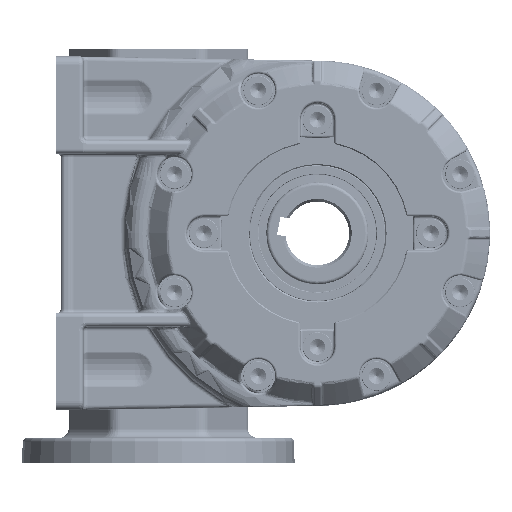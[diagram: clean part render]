
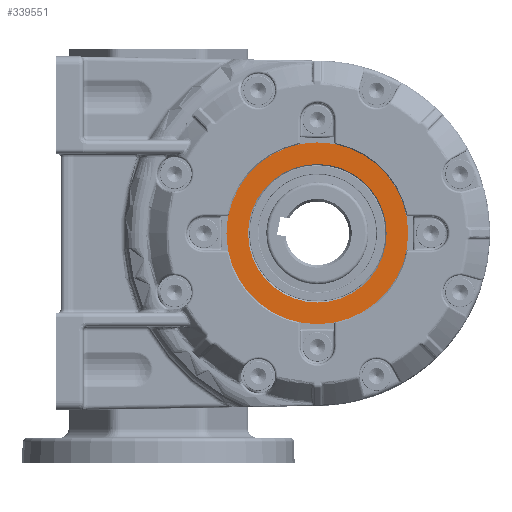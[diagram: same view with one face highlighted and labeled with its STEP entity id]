
A CAD part, left-side view. The second image highlights one B-rep face of the part: STEP entity #339551.
In plain terms, the highlighted planar face has unit normal (-1, 0, 0) as drawn and (0, 0, -1) by its records, which use the part's own axes.
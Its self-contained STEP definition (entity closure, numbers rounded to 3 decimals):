
#65634 = DIRECTION ( 'NONE',  ( 1., 0., 0. ) ) ;
#65635 = DIRECTION ( 'NONE',  ( 0., 0., 1. ) ) ;
#65636 = AXIS2_PLACEMENT_3D ( 'NONE', #65644, #65635, #65634 ) ;
#65637 = CIRCLE ( 'NONE', #65636, 40. ) ;
#65644 = CARTESIAN_POINT ( 'NONE',  ( 0., 0., -22.5 ) ) ;
#65780 = DIRECTION ( 'NONE',  ( 1., 0., 0. ) ) ;
#65782 = DIRECTION ( 'NONE',  ( 0., 0., 1. ) ) ;
#65785 = CARTESIAN_POINT ( 'NONE',  ( 0., 0., -22.5 ) ) ;
#65786 = AXIS2_PLACEMENT_3D ( 'NONE', #65785, #65782, #65780 ) ;
#65789 = CIRCLE ( 'NONE', #65786, 30.5 ) ;
#65798 = DIRECTION ( 'NONE',  ( 1., 0., 0. ) ) ;
#65801 = DIRECTION ( 'NONE',  ( 0., 0., 1. ) ) ;
#65804 = CARTESIAN_POINT ( 'NONE',  ( 0., 40., -22.5 ) ) ;
#65806 = AXIS2_PLACEMENT_3D ( 'NONE', #65804, #65801, #65798 ) ;
#65808 = PLANE ( 'NONE',  #65806 ) ;
#65817 = FACE_OUTER_BOUND ( 'NONE', #339577, .T. ) ;
#65819 = FACE_BOUND ( 'NONE', #339557, .T. ) ;
#69976 = DIRECTION ( 'NONE',  ( 1., 0., 0. ) ) ;
#69982 = CARTESIAN_POINT ( 'NONE',  ( 30.5, 0., -22.5 ) ) ;
#70062 = CARTESIAN_POINT ( 'NONE',  ( -30.5, 0., -22.5 ) ) ;
#71090 = DIRECTION ( 'NONE',  ( 0., 0., 1. ) ) ;
#71092 = CARTESIAN_POINT ( 'NONE',  ( 0., 0., -22.5 ) ) ;
#71095 = AXIS2_PLACEMENT_3D ( 'NONE', #71092, #71090, #69976 ) ;
#71098 = CIRCLE ( 'NONE', #71095, 30.5 ) ;
#103578 = DIRECTION ( 'NONE',  ( 0., 0., 1. ) ) ;
#103590 = CARTESIAN_POINT ( 'NONE',  ( 0., 0., -22.5 ) ) ;
#103623 = AXIS2_PLACEMENT_3D ( 'NONE', #103590, #103578, #103653 ) ;
#103626 = CIRCLE ( 'NONE', #103623, 40. ) ;
#103646 = CARTESIAN_POINT ( 'NONE',  ( -40., 0., -22.5 ) ) ;
#103649 = CARTESIAN_POINT ( 'NONE',  ( 40., 0., -22.5 ) ) ;
#103653 = DIRECTION ( 'NONE',  ( 1., 0., 0. ) ) ;
#339324 = EDGE_CURVE ( 'NONE', #428325, #428322, #65637, .T. ) ;
#339551 = ADVANCED_FACE ( 'NONE', ( #65819, #65817 ), #65808, .F. ) ;
#339557 = EDGE_LOOP ( 'NONE', ( #339560, #339564 ) ) ;
#339560 = ORIENTED_EDGE ( 'NONE', *, *, #426160, .T. ) ;
#339564 = ORIENTED_EDGE ( 'NONE', *, *, #339568, .T. ) ;
#339568 = EDGE_CURVE ( 'NONE', #426147, #426161, #65789, .T. ) ;
#339577 = EDGE_LOOP ( 'NONE', ( #339580, #339582 ) ) ;
#339580 = ORIENTED_EDGE ( 'NONE', *, *, #428321, .F. ) ;
#339582 = ORIENTED_EDGE ( 'NONE', *, *, #339324, .F. ) ;
#426147 = VERTEX_POINT ( 'NONE', #69982 ) ;
#426160 = EDGE_CURVE ( 'NONE', #426161, #426147, #71098, .T. ) ;
#426161 = VERTEX_POINT ( 'NONE', #70062 ) ;
#428321 = EDGE_CURVE ( 'NONE', #428322, #428325, #103626, .T. ) ;
#428322 = VERTEX_POINT ( 'NONE', #103649 ) ;
#428325 = VERTEX_POINT ( 'NONE', #103646 ) ;
